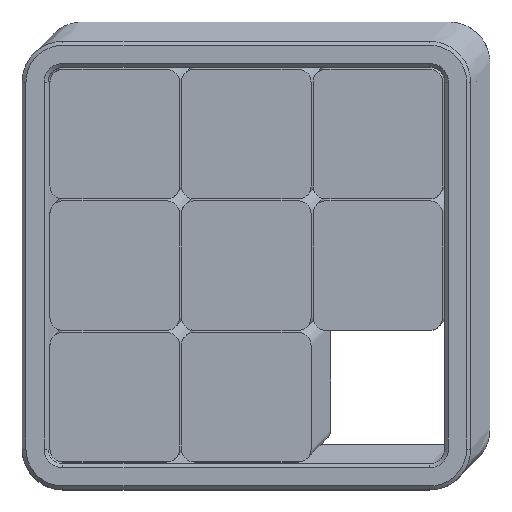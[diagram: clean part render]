
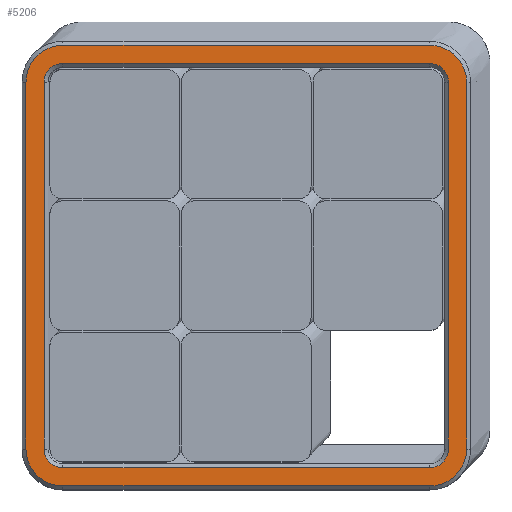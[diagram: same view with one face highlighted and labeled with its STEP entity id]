
A CAD part, top view. The second image highlights one B-rep face of the part: STEP entity #5206.
In plain terms, the highlighted planar face has unit normal (0, 0, 1).
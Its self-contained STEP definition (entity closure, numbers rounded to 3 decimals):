
#13=FACE_BOUND('',#695,.T.);
#223=PLANE('',#5564);
#390=FACE_OUTER_BOUND('',#694,.T.);
#694=EDGE_LOOP('',(#3716,#3717,#3718,#3719,#3720,#3721,#3722,#3723));
#695=EDGE_LOOP('',(#3724,#3725,#3726,#3727,#3728,#3729,#3730,#3731));
#983=CIRCLE('',#5543,2.9);
#985=CIRCLE('',#5547,2.9);
#987=CIRCLE('',#5551,2.9);
#989=CIRCLE('',#5555,2.9);
#994=CIRCLE('',#5565,5.7);
#995=CIRCLE('',#5566,5.7);
#996=CIRCLE('',#5567,5.7);
#997=CIRCLE('',#5568,5.7);
#1255=LINE('',#8098,#1749);
#1260=LINE('',#8112,#1754);
#1264=LINE('',#8124,#1758);
#1268=LINE('',#8136,#1762);
#1277=LINE('',#8166,#1771);
#1278=LINE('',#8170,#1772);
#1279=LINE('',#8174,#1773);
#1280=LINE('',#8177,#1774);
#1749=VECTOR('',#6165,10.);
#1754=VECTOR('',#6178,10.);
#1758=VECTOR('',#6190,10.);
#1762=VECTOR('',#6202,10.);
#1771=VECTOR('',#6235,10.);
#1772=VECTOR('',#6238,10.);
#1773=VECTOR('',#6241,10.);
#1774=VECTOR('',#6244,10.);
#2246=VERTEX_POINT('',#8095);
#2247=VERTEX_POINT('',#8097);
#2250=VERTEX_POINT('',#8104);
#2252=VERTEX_POINT('',#8110);
#2254=VERTEX_POINT('',#8116);
#2256=VERTEX_POINT('',#8122);
#2258=VERTEX_POINT('',#8128);
#2260=VERTEX_POINT('',#8134);
#2267=VERTEX_POINT('',#8162);
#2268=VERTEX_POINT('',#8163);
#2269=VERTEX_POINT('',#8165);
#2270=VERTEX_POINT('',#8167);
#2271=VERTEX_POINT('',#8169);
#2272=VERTEX_POINT('',#8171);
#2273=VERTEX_POINT('',#8173);
#2274=VERTEX_POINT('',#8175);
#2789=EDGE_CURVE('',#2246,#2247,#1255,.T.);
#2793=EDGE_CURVE('',#2250,#2246,#983,.T.);
#2796=EDGE_CURVE('',#2252,#2250,#1260,.T.);
#2799=EDGE_CURVE('',#2254,#2252,#985,.T.);
#2802=EDGE_CURVE('',#2256,#2254,#1264,.T.);
#2805=EDGE_CURVE('',#2258,#2256,#987,.T.);
#2808=EDGE_CURVE('',#2260,#2258,#1268,.T.);
#2810=EDGE_CURVE('',#2247,#2260,#989,.T.);
#2822=EDGE_CURVE('',#2267,#2268,#994,.T.);
#2823=EDGE_CURVE('',#2269,#2267,#1277,.T.);
#2824=EDGE_CURVE('',#2270,#2269,#995,.T.);
#2825=EDGE_CURVE('',#2271,#2270,#1278,.T.);
#2826=EDGE_CURVE('',#2272,#2271,#996,.T.);
#2827=EDGE_CURVE('',#2273,#2272,#1279,.T.);
#2828=EDGE_CURVE('',#2274,#2273,#997,.T.);
#2829=EDGE_CURVE('',#2268,#2274,#1280,.T.);
#3716=ORIENTED_EDGE('',*,*,#2822,.F.);
#3717=ORIENTED_EDGE('',*,*,#2823,.F.);
#3718=ORIENTED_EDGE('',*,*,#2824,.F.);
#3719=ORIENTED_EDGE('',*,*,#2825,.F.);
#3720=ORIENTED_EDGE('',*,*,#2826,.F.);
#3721=ORIENTED_EDGE('',*,*,#2827,.F.);
#3722=ORIENTED_EDGE('',*,*,#2828,.F.);
#3723=ORIENTED_EDGE('',*,*,#2829,.F.);
#3724=ORIENTED_EDGE('',*,*,#2789,.F.);
#3725=ORIENTED_EDGE('',*,*,#2793,.F.);
#3726=ORIENTED_EDGE('',*,*,#2796,.F.);
#3727=ORIENTED_EDGE('',*,*,#2799,.F.);
#3728=ORIENTED_EDGE('',*,*,#2802,.F.);
#3729=ORIENTED_EDGE('',*,*,#2805,.F.);
#3730=ORIENTED_EDGE('',*,*,#2808,.F.);
#3731=ORIENTED_EDGE('',*,*,#2810,.F.);
#5206=ADVANCED_FACE('',(#390,#13),#223,.T.);
#5543=AXIS2_PLACEMENT_3D('',#8106,#6171,#6172);
#5547=AXIS2_PLACEMENT_3D('',#8118,#6183,#6184);
#5551=AXIS2_PLACEMENT_3D('',#8130,#6195,#6196);
#5555=AXIS2_PLACEMENT_3D('',#8139,#6206,#6207);
#5564=AXIS2_PLACEMENT_3D('',#8161,#6231,#6232);
#5565=AXIS2_PLACEMENT_3D('',#8164,#6233,#6234);
#5566=AXIS2_PLACEMENT_3D('',#8168,#6236,#6237);
#5567=AXIS2_PLACEMENT_3D('',#8172,#6239,#6240);
#5568=AXIS2_PLACEMENT_3D('',#8176,#6242,#6243);
#6165=DIRECTION('',(0.,-1.,0.));
#6171=DIRECTION('center_axis',(0.,0.,
1.));
#6172=DIRECTION('ref_axis',(0.,1.,0.));
#6178=DIRECTION('',(-1.,0.,0.));
#6183=DIRECTION('center_axis',(0.,0.,
1.));
#6184=DIRECTION('ref_axis',(1.,0.,0.));
#6190=DIRECTION('',(0.,1.,0.));
#6195=DIRECTION('center_axis',(0.,0.,
1.));
#6196=DIRECTION('ref_axis',(0.,-1.,0.));
#6202=DIRECTION('',(1.,0.,0.));
#6206=DIRECTION('center_axis',(0.,0.,
1.));
#6207=DIRECTION('ref_axis',(-1.,0.,0.));
#6231=DIRECTION('center_axis',(0.,0.,
1.));
#6232=DIRECTION('ref_axis',(1.,0.,0.));
#6233=DIRECTION('center_axis',(0.,0.,
-1.));
#6234=DIRECTION('ref_axis',(-1.,0.,0.));
#6235=DIRECTION('',(-1.,0.,0.));
#6236=DIRECTION('center_axis',(0.,0.,
-1.));
#6237=DIRECTION('ref_axis',(0.,-1.,0.));
#6238=DIRECTION('',(0.,-1.,0.));
#6239=DIRECTION('center_axis',(0.,0.,
-1.));
#6240=DIRECTION('ref_axis',(1.,0.,0.));
#6241=DIRECTION('',(1.,0.,0.));
#6242=DIRECTION('center_axis',(0.,0.,
-1.));
#6243=DIRECTION('ref_axis',(0.,1.,0.));
#6244=DIRECTION('',(0.,1.,0.));
#8095=CARTESIAN_POINT('',(-31.2,28.3,14.));
#8097=CARTESIAN_POINT('',(-31.2,-28.3,14.));
#8098=CARTESIAN_POINT('',(-31.2,-14.15,14.));
#8104=CARTESIAN_POINT('',(-28.3,31.2,14.));
#8106=CARTESIAN_POINT('Origin',(-28.3,28.3,14.));
#8110=CARTESIAN_POINT('',(28.3,31.2,14.));
#8112=CARTESIAN_POINT('',(-14.15,31.2,14.));
#8116=CARTESIAN_POINT('',(31.2,28.3,14.));
#8118=CARTESIAN_POINT('Origin',(28.3,28.3,14.));
#8122=CARTESIAN_POINT('',(31.2,-28.3,14.));
#8124=CARTESIAN_POINT('',(31.2,14.15,14.));
#8128=CARTESIAN_POINT('',(28.3,-31.2,14.));
#8130=CARTESIAN_POINT('Origin',(28.3,-28.3,14.));
#8134=CARTESIAN_POINT('',(-28.3,-31.2,14.));
#8136=CARTESIAN_POINT('',(14.15,-31.2,14.));
#8139=CARTESIAN_POINT('Origin',(-28.3,-28.3,14.));
#8161=CARTESIAN_POINT('Origin',(0.,0.,
14.));
#8162=CARTESIAN_POINT('',(-28.3,-34.,14.));
#8163=CARTESIAN_POINT('',(-34.,-28.3,14.));
#8164=CARTESIAN_POINT('Origin',(-28.3,-28.3,14.));
#8165=CARTESIAN_POINT('',(28.3,-34.,14.));
#8166=CARTESIAN_POINT('',(-14.15,-34.,14.));
#8167=CARTESIAN_POINT('',(34.,-28.3,14.));
#8168=CARTESIAN_POINT('Origin',(28.3,-28.3,14.));
#8169=CARTESIAN_POINT('',(34.,28.3,14.));
#8170=CARTESIAN_POINT('',(34.,-14.15,14.));
#8171=CARTESIAN_POINT('',(28.3,34.,14.));
#8172=CARTESIAN_POINT('Origin',(28.3,28.3,14.));
#8173=CARTESIAN_POINT('',(-28.3,34.,14.));
#8174=CARTESIAN_POINT('',(14.15,34.,14.));
#8175=CARTESIAN_POINT('',(-34.,28.3,14.));
#8176=CARTESIAN_POINT('Origin',(-28.3,28.3,14.));
#8177=CARTESIAN_POINT('',(-34.,14.15,14.));
